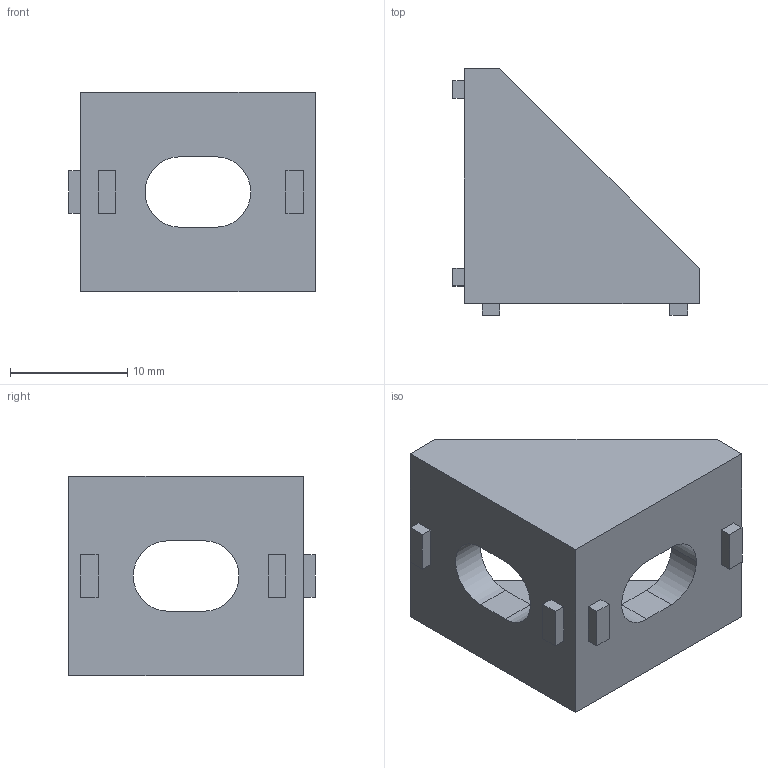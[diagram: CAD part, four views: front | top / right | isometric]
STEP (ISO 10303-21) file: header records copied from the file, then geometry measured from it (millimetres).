
FILE_DESCRIPTION (( 'STEP AP203' ), '1' );
FILE_NAME ('50-CE-RA2020G-4.STEP', '2015-07-07T06:14:05', ( '' ), ( '' ), 'SwSTEP 2.0', 'SolidWorks 2013', '' );
FILE_SCHEMA (( 'CONFIG_CONTROL_DESIGN' ));
Length unit declared in the file: millimetre
Products named in the file (1): 50-CE-RA2020G-4
Bounding box: 21 x 21 x 17 mm (x, y, z)
Volume: 2281.2 mm3; surface area: 2120 mm2
Topology: 1 solids, 1 shells, 42 faces, 104 edges, 68 vertices
Faces by surface type: plane 36, cylinder 6
Entity records: 1313 total; most frequent: CARTESIAN_POINT 215, ORIENTED_EDGE 208, DIRECTION 202, EDGE_CURVE 104, VECTOR 92, LINE 92, VERTEX_POINT 68, AXIS2_PLACEMENT_3D 55
